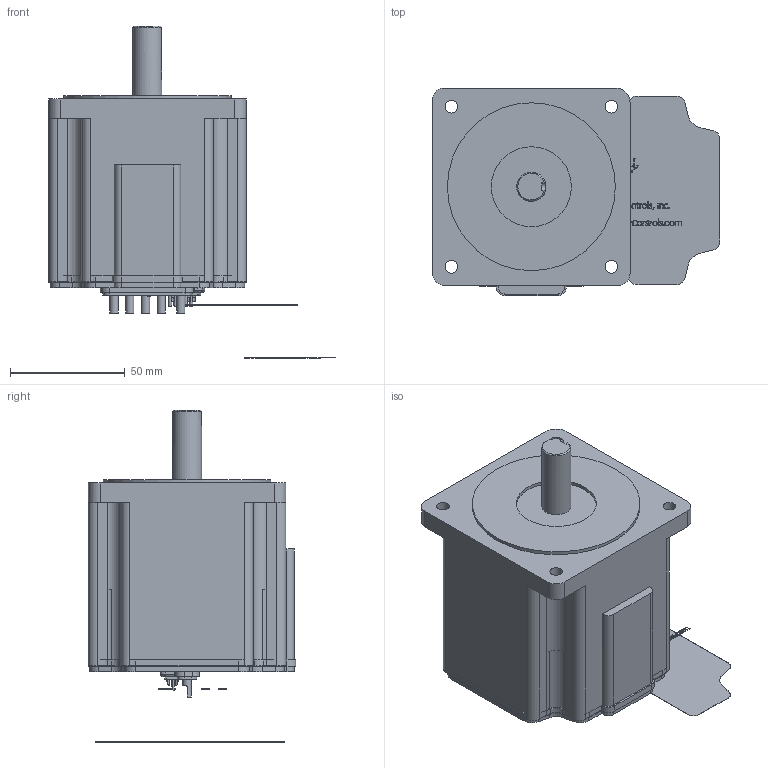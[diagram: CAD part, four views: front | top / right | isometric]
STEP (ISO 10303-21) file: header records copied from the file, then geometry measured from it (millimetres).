
FILE_DESCRIPTION(/* description */ ('Alibre Inc.'),/* implementation_level */ '2;1');
FILE_NAME(/* name */ 'export0',/* time_stamp */ '2008-03-26T08:20:56-07:00',/* author */ (''),/* organization */ (''),/* preprocessor_version */ 'ST-DEVELOPER v10',/* originating_system */ 'Alibre',/* authorisation */ '');
FILE_SCHEMA (('ALIBRE_SCHEMA','CONFIG_CONTROL_DESIGN'));
Length unit declared in the file: inch
Products named in the file (11): ID_1; ID_2; ID_3
Bounding box: 124.92 x 90.42 x 144.4 mm (x, y, z)
Volume: 576982.7 mm3; surface area: 94262.1 mm2
Topology: 63 solids, 64 shells, 2051 faces, 5333 edges, 3495 vertices
Faces by surface type: plane 996, bspline 641, cylinder 358, torus 50, cone 6
Full cylindrical faces by diameter (mm): 2.489 x1, 2.794 x5, 2.87 x1, 3.048 x6, 3.556 x15, 5.537 x4, 9.525 x2, 12.7 x1, 25.4 x1, 34.798 x1, 73.025 x1
Entity records: 124736 total; most frequent: CARTESIAN_POINT 36181, ORIENTED_EDGE 13338, DIRECTION 9382, EDGE_CURVE 6661, CONSTRAINTPAIRUV 5249, VECTOR 4937, PERSISTANTTOPOLOGYATTRIBUTE 4687, LINE 4547
